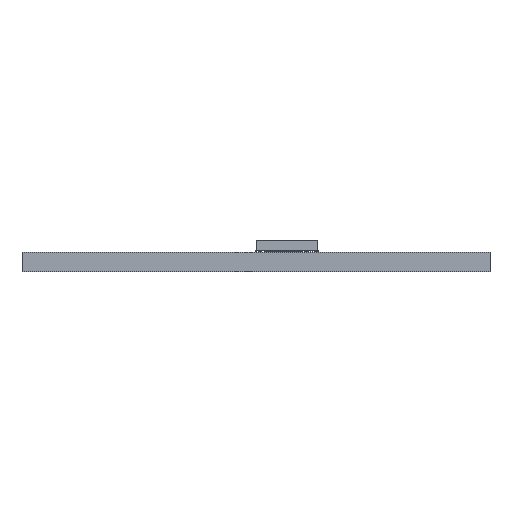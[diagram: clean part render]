
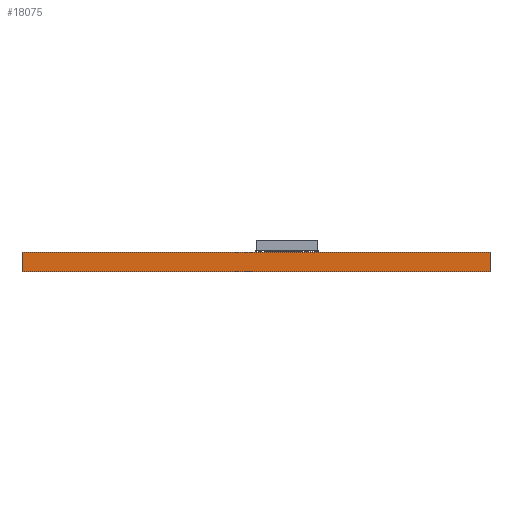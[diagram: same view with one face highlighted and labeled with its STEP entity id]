
A CAD part, front view. The second image highlights one B-rep face of the part: STEP entity #18075.
In plain terms, the highlighted planar face has unit normal (0, -1, 0).
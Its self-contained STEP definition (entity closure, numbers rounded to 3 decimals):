
#11411 = PLANE('',#11412);
#11412 = AXIS2_PLACEMENT_3D('',#11413,#11414,#11415);
#11413 = CARTESIAN_POINT('',(12.065,-88.265,0.));
#11414 = DIRECTION('',(-1.,0.,0.));
#11415 = DIRECTION('',(0.,1.,0.));
#11439 = PLANE('',#11440);
#11440 = AXIS2_PLACEMENT_3D('',#11441,#11442,#11443);
#11441 = CARTESIAN_POINT('',(31.115,-50.165,1.6));
#11442 = DIRECTION('',(0.,0.,-1.));
#11443 = DIRECTION('',(-1.,0.,0.));
#11467 = PLANE('',#11468);
#11468 = AXIS2_PLACEMENT_3D('',#11469,#11470,#11471);
#11469 = CARTESIAN_POINT('',(50.165,-12.065,0.));
#11470 = DIRECTION('',(1.,0.,0.));
#11471 = DIRECTION('',(0.,-1.,0.));
#11493 = PLANE('',#11494);
#11494 = AXIS2_PLACEMENT_3D('',#11495,#11496,#11497);
#11495 = CARTESIAN_POINT('',(31.115,-50.165,0.));
#11496 = DIRECTION('',(0.,0.,-1.));
#11497 = DIRECTION('',(-1.,0.,0.));
#11508 = EDGE_CURVE('',#11509,#11511,#11513,.T.);
#11509 = VERTEX_POINT('',#11510);
#11510 = CARTESIAN_POINT('',(12.065,-88.265,0.));
#11511 = VERTEX_POINT('',#11512);
#11512 = CARTESIAN_POINT('',(12.065,-88.265,1.6));
#11513 = SURFACE_CURVE('',#11514,(#11518,#11525),.PCURVE_S1.);
#11514 = LINE('',#11515,#11516);
#11515 = CARTESIAN_POINT('',(12.065,-88.265,0.));
#11516 = VECTOR('',#11517,1.);
#11517 = DIRECTION('',(0.,0.,1.));
#11518 = PCURVE('',#11411,#11519);
#11519 = DEFINITIONAL_REPRESENTATION('',(#11520),#11524);
#11520 = LINE('',#11521,#11522);
#11521 = CARTESIAN_POINT('',(0.,0.));
#11522 = VECTOR('',#11523,1.);
#11523 = DIRECTION('',(0.,-1.));
#11524 = ( GEOMETRIC_REPRESENTATION_CONTEXT(2) 
PARAMETRIC_REPRESENTATION_CONTEXT() REPRESENTATION_CONTEXT('2D SPACE',''
  ) );
#11525 = PCURVE('',#11526,#11531);
#11526 = PLANE('',#11527);
#11527 = AXIS2_PLACEMENT_3D('',#11528,#11529,#11530);
#11528 = CARTESIAN_POINT('',(50.165,-88.265,0.));
#11529 = DIRECTION('',(0.,-1.,0.));
#11530 = DIRECTION('',(-1.,0.,0.));
#11531 = DEFINITIONAL_REPRESENTATION('',(#11532),#11536);
#11532 = LINE('',#11533,#11534);
#11533 = CARTESIAN_POINT('',(38.1,0.));
#11534 = VECTOR('',#11535,1.);
#11535 = DIRECTION('',(0.,-1.));
#11536 = ( GEOMETRIC_REPRESENTATION_CONTEXT(2) 
PARAMETRIC_REPRESENTATION_CONTEXT() REPRESENTATION_CONTEXT('2D SPACE',''
  ) );
#11586 = VERTEX_POINT('',#11587);
#11587 = CARTESIAN_POINT('',(50.165,-88.265,1.6));
#11608 = EDGE_CURVE('',#11609,#11586,#11611,.T.);
#11609 = VERTEX_POINT('',#11610);
#11610 = CARTESIAN_POINT('',(50.165,-88.265,0.));
#11611 = SURFACE_CURVE('',#11612,(#11616,#11623),.PCURVE_S1.);
#11612 = LINE('',#11613,#11614);
#11613 = CARTESIAN_POINT('',(50.165,-88.265,0.));
#11614 = VECTOR('',#11615,1.);
#11615 = DIRECTION('',(0.,0.,1.));
#11616 = PCURVE('',#11467,#11617);
#11617 = DEFINITIONAL_REPRESENTATION('',(#11618),#11622);
#11618 = LINE('',#11619,#11620);
#11619 = CARTESIAN_POINT('',(76.2,0.));
#11620 = VECTOR('',#11621,1.);
#11621 = DIRECTION('',(0.,-1.));
#11622 = ( GEOMETRIC_REPRESENTATION_CONTEXT(2) 
PARAMETRIC_REPRESENTATION_CONTEXT() REPRESENTATION_CONTEXT('2D SPACE',''
  ) );
#11623 = PCURVE('',#11526,#11624);
#11624 = DEFINITIONAL_REPRESENTATION('',(#11625),#11629);
#11625 = LINE('',#11626,#11627);
#11626 = CARTESIAN_POINT('',(0.,0.));
#11627 = VECTOR('',#11628,1.);
#11628 = DIRECTION('',(0.,-1.));
#11629 = ( GEOMETRIC_REPRESENTATION_CONTEXT(2) 
PARAMETRIC_REPRESENTATION_CONTEXT() REPRESENTATION_CONTEXT('2D SPACE',''
  ) );
#11657 = EDGE_CURVE('',#11609,#11509,#11658,.T.);
#11658 = SURFACE_CURVE('',#11659,(#11663,#11670),.PCURVE_S1.);
#11659 = LINE('',#11660,#11661);
#11660 = CARTESIAN_POINT('',(50.165,-88.265,0.));
#11661 = VECTOR('',#11662,1.);
#11662 = DIRECTION('',(-1.,0.,0.));
#11663 = PCURVE('',#11493,#11664);
#11664 = DEFINITIONAL_REPRESENTATION('',(#11665),#11669);
#11665 = LINE('',#11666,#11667);
#11666 = CARTESIAN_POINT('',(-19.05,-38.1));
#11667 = VECTOR('',#11668,1.);
#11668 = DIRECTION('',(1.,0.));
#11669 = ( GEOMETRIC_REPRESENTATION_CONTEXT(2) 
PARAMETRIC_REPRESENTATION_CONTEXT() REPRESENTATION_CONTEXT('2D SPACE',''
  ) );
#11670 = PCURVE('',#11526,#11671);
#11671 = DEFINITIONAL_REPRESENTATION('',(#11672),#11676);
#11672 = LINE('',#11673,#11674);
#11673 = CARTESIAN_POINT('',(0.,0.));
#11674 = VECTOR('',#11675,1.);
#11675 = DIRECTION('',(1.,0.));
#11676 = ( GEOMETRIC_REPRESENTATION_CONTEXT(2) 
PARAMETRIC_REPRESENTATION_CONTEXT() REPRESENTATION_CONTEXT('2D SPACE',''
  ) );
#15114 = EDGE_CURVE('',#11586,#11511,#15115,.T.);
#15115 = SURFACE_CURVE('',#15116,(#15120,#15127),.PCURVE_S1.);
#15116 = LINE('',#15117,#15118);
#15117 = CARTESIAN_POINT('',(50.165,-88.265,1.6));
#15118 = VECTOR('',#15119,1.);
#15119 = DIRECTION('',(-1.,0.,0.));
#15120 = PCURVE('',#11439,#15121);
#15121 = DEFINITIONAL_REPRESENTATION('',(#15122),#15126);
#15122 = LINE('',#15123,#15124);
#15123 = CARTESIAN_POINT('',(-19.05,-38.1));
#15124 = VECTOR('',#15125,1.);
#15125 = DIRECTION('',(1.,0.));
#15126 = ( GEOMETRIC_REPRESENTATION_CONTEXT(2) 
PARAMETRIC_REPRESENTATION_CONTEXT() REPRESENTATION_CONTEXT('2D SPACE',''
  ) );
#15127 = PCURVE('',#11526,#15128);
#15128 = DEFINITIONAL_REPRESENTATION('',(#15129),#15133);
#15129 = LINE('',#15130,#15131);
#15130 = CARTESIAN_POINT('',(0.,-1.6));
#15131 = VECTOR('',#15132,1.);
#15132 = DIRECTION('',(1.,0.));
#15133 = ( GEOMETRIC_REPRESENTATION_CONTEXT(2) 
PARAMETRIC_REPRESENTATION_CONTEXT() REPRESENTATION_CONTEXT('2D SPACE',''
  ) );
#18075 = ADVANCED_FACE('',(#18076),#11526,.T.);
#18076 = FACE_BOUND('',#18077,.T.);
#18077 = EDGE_LOOP('',(#18078,#18079,#18080,#18081));
#18078 = ORIENTED_EDGE('',*,*,#11608,.T.);
#18079 = ORIENTED_EDGE('',*,*,#15114,.T.);
#18080 = ORIENTED_EDGE('',*,*,#11508,.F.);
#18081 = ORIENTED_EDGE('',*,*,#11657,.F.);
